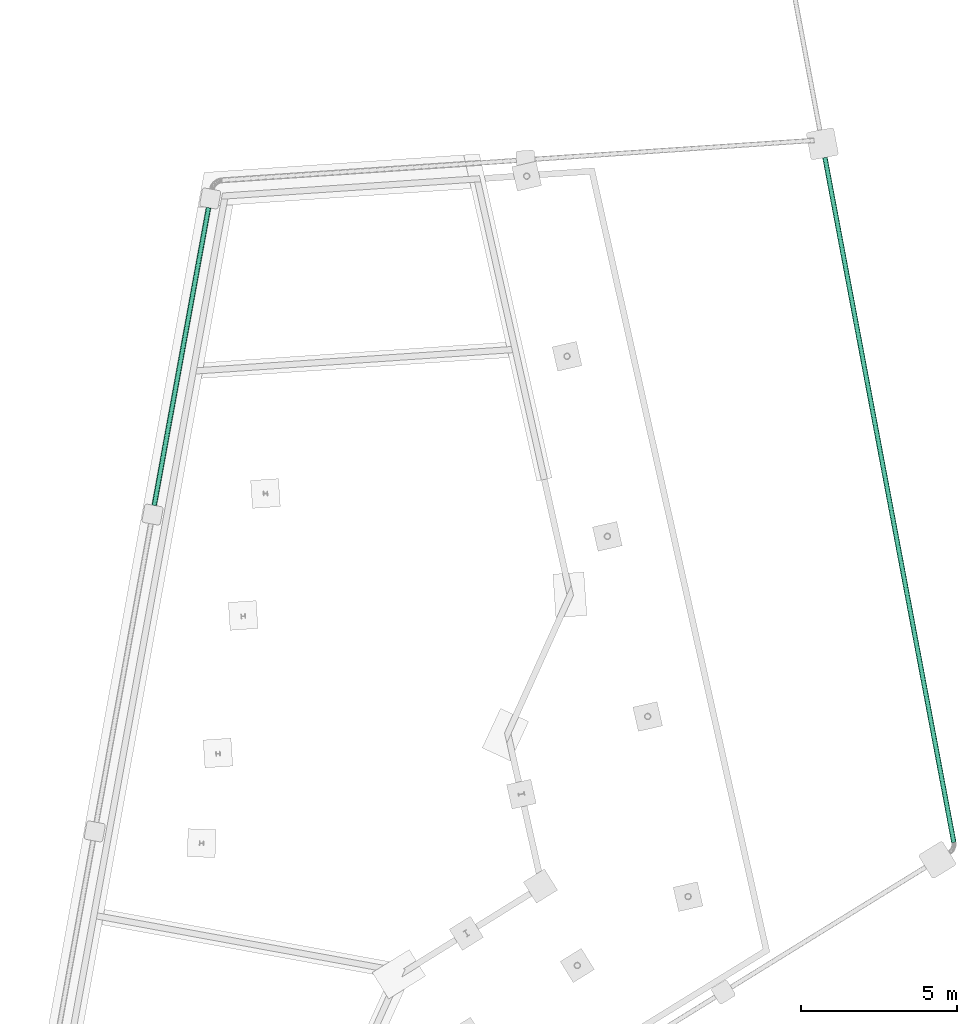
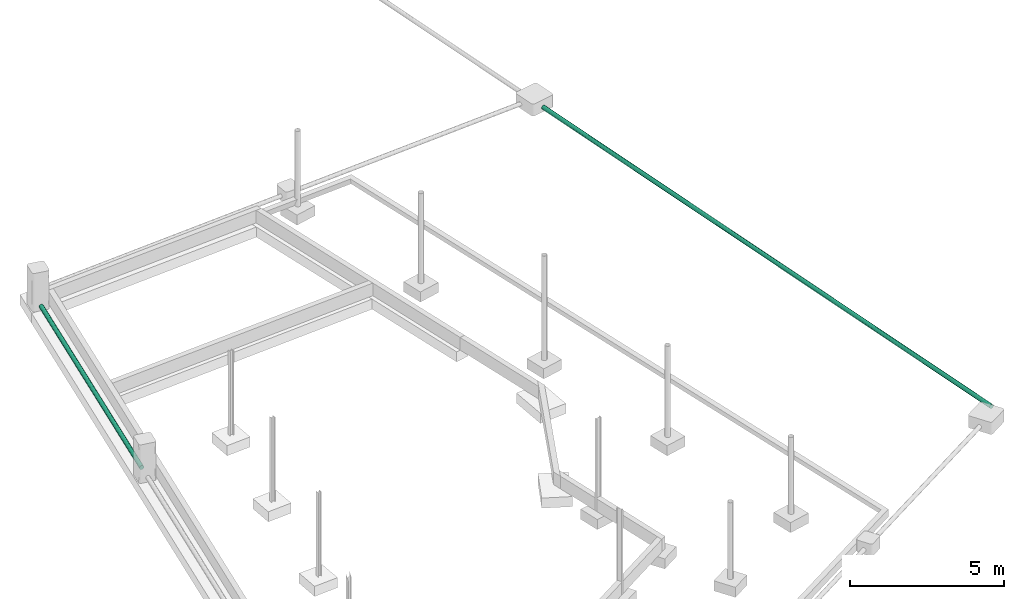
# One storey, part 11 of 17: 2 flow segments.
"""IFC2X3 building model written with IfcOpenShell, lengths in centimetres."""

from ifc_helpers import new_model, entity, si_unit, converted_unit, derived_unit, direction, frame, origin, origin_2d_with_axis, place, context, subcontext, project, spatial, circle, extrude, type_object, element, save


model = new_model("IFC2X3")

# Units and contexts
model_context = context("Model", 3, precision=0.001, world=origin(), true_north=direction((6.12303176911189e-17, 1.0)))
body_context = subcontext(model_context, "Body", "Model", "MODEL_VIEW")
ifc_project = project(units=[si_unit("LENGTHUNIT", "METRE", prefix="CENTI"), si_unit("AREAUNIT", "SQUARE_METRE"), si_unit("VOLUMEUNIT", "CUBIC_METRE"), converted_unit("PLANEANGLEUNIT", "DEGREE", entity("IfcRatioMeasure", 0.0174532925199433), si_unit("PLANEANGLEUNIT", "RADIAN"), dimensions=[0, 0, 0, 0, 0, 0, 0]), si_unit("MASSUNIT", "GRAM", prefix="KILO"), derived_unit("MASSDENSITYUNIT", [(si_unit("MASSUNIT", "GRAM", prefix="KILO"), 1), (si_unit("LENGTHUNIT", "METRE"), -3)]), si_unit("TIMEUNIT", "SECOND"), si_unit("FREQUENCYUNIT", "HERTZ"), si_unit("THERMODYNAMICTEMPERATUREUNIT", "DEGREE_CELSIUS"), derived_unit("THERMALTRANSMITTANCEUNIT", [(si_unit("MASSUNIT", "GRAM", prefix="KILO"), 1), (si_unit("THERMODYNAMICTEMPERATUREUNIT", "KELVIN"), -1), (si_unit("TIMEUNIT", "SECOND"), -3)]), derived_unit("VOLUMETRICFLOWRATEUNIT", [(si_unit("LENGTHUNIT", "METRE"), 3), (si_unit("TIMEUNIT", "SECOND"), -1)]), si_unit("ELECTRICCURRENTUNIT", "AMPERE"), si_unit("ELECTRICVOLTAGEUNIT", "VOLT"), si_unit("POWERUNIT", "WATT"), si_unit("FORCEUNIT", "NEWTON", prefix="KILO"), si_unit("ILLUMINANCEUNIT", "LUX"), si_unit("LUMINOUSFLUXUNIT", "LUMEN"), si_unit("LUMINOUSINTENSITYUNIT", "CANDELA"), derived_unit("USERDEFINED", [(si_unit("MASSUNIT", "GRAM", prefix="KILO"), -1), (si_unit("LENGTHUNIT", "METRE"), -2), (si_unit("TIMEUNIT", "SECOND"), 3), (si_unit("LUMINOUSFLUXUNIT", "LUMEN"), 1)]), derived_unit("LINEARVELOCITYUNIT", [(si_unit("LENGTHUNIT", "METRE"), 1), (si_unit("TIMEUNIT", "SECOND"), -1)]), si_unit("PRESSUREUNIT", "PASCAL"), derived_unit("USERDEFINED", [(si_unit("LENGTHUNIT", "METRE"), -2), (si_unit("MASSUNIT", "GRAM", prefix="KILO"), 1), (si_unit("TIMEUNIT", "SECOND"), -2)])], contexts=[model_context])

# Site, building, storey
site_placement = place(None, frame((2611.71187422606, 13650.4058644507, 0.0), z_axis=(0.0, 0.0, 1.0), x_axis=(0.0673222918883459, -0.997731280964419, 0.0)))
site = spatial("IfcSite", under=ifc_project, at=site_placement, Name="Surface", CompositionType="ELEMENT")
building_placement = place(site_placement, origin())
building = spatial("IfcBuilding", under=site, at=building_placement, CompositionType="ELEMENT")
storey_placement = place(building_placement, frame((0.0, 0.0, 86950.0)))
storey = spatial("IfcBuildingStorey", under=building, at=storey_placement, Name="-1 Soubassement", CompositionType="ELEMENT", Elevation=86950.0)

# Flow segments
pipe_segment_type = type_object("IfcPipeSegmentType", Name="Canalisation:Canalisation EP", PredefinedType="NOTDEFINED")
flow_segment_1_placement = place(storey_placement, origin())
element("IfcFlowSegment", 1, at=flow_segment_1_placement, inside=storey, type_object=pipe_segment_type, Name="Canalisation:Canalisation EP", ObjectType="Canalisation:Canalisation EP", context=body_context, shape_type="SweptSolid", body=[
    extrude(circle(Radius=8.0, at=origin_2d_with_axis()), frame((1962.06131155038, 2135.31519112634, 18.0), z_axis=(0.992969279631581, 0.118372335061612, 0.0), x_axis=(0.118372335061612, -0.992969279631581, 0.0)), (0.0, 0.0, 1.0), 2238.20966958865),
])
flow_segment_2_placement = place(storey_placement, origin())
element("IfcFlowSegment", 2, at=flow_segment_2_placement, inside=storey, type_object=pipe_segment_type, Name="Canalisation:Canalisation EP", ObjectType="Canalisation:Canalisation EP", context=body_context, shape_type="SweptSolid", body=[
    extrude(circle(Radius=8.0, at=origin_2d_with_axis()), frame((2931.59095173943, -89.3324984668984, 18.0), z_axis=(-0.969464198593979, 0.245232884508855, 0.0), x_axis=(-0.245232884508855, -0.969464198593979, 0.0)), (0.0, 0.0, 1.0), 972.000000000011),
])

save(model, "model.ifc")
